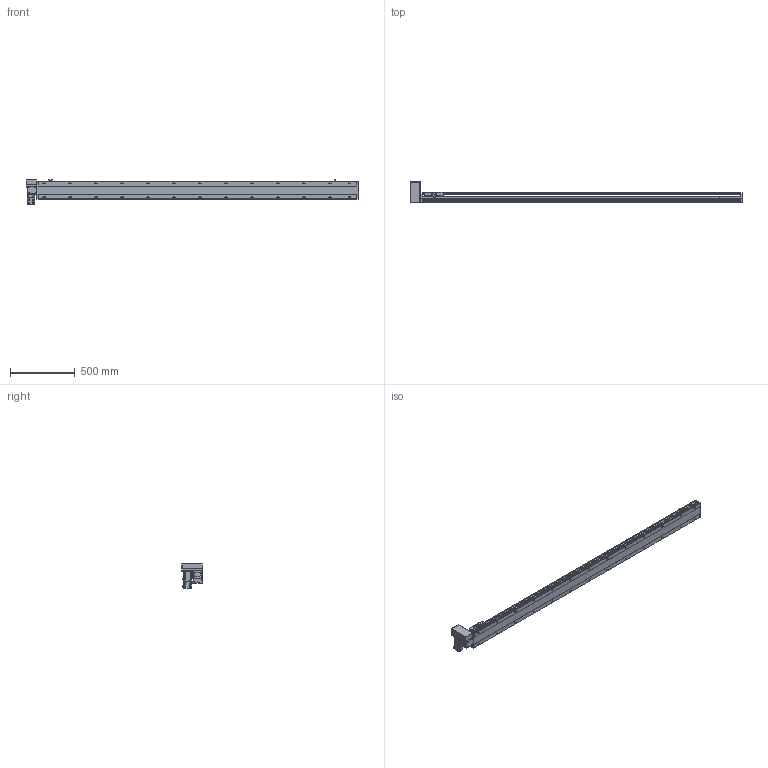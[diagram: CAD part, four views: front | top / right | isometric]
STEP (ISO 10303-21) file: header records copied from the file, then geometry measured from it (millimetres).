
FILE_DESCRIPTION( ( 'STEP AP214' ), '1' );
FILE_NAME( 'x:/temp/worker_1/temp/exporttempdir_5824_156_KJQMu/format_0/PBS140-P40-S2200-RU-T40-C1-N(0).stp', '2022-06-07T05:56:30', ( 'License CC BY-ND 4.0' ), ( 'CADENAS' ), ' ', 'PARTsolutions', ' ' );
FILE_SCHEMA( ( 'AUTOMOTIVE_DESIGN { 1 0 10303 214 1 1 1 1 }' ) );
Length unit declared in the file: millimetre
Products named in the file (7): PBS140-P40-S2200-RU-T40-C1-N(0); _PBS140-S2200()_body; _PBS140T-RU_motors; _T40-p1; _PBS140_sliser; _PBS140_plant; _PBS140_sensor
Assembly tree (8 placements, depth 2):
  PBS140-P40-S2200-RU-T40-C1-N(0)
    _PBS140-S2200()_body
    _PBS140T-RU_motors
    _T40-p1
    _PBS140_sliser
    _PBS140_plant
    _PBS140_sensor  x3
Bounding box: 2554 x 162.5 x 189.7 mm (x, y, z)
Volume: 11543391.6 mm3; surface area: 1971802.4 mm2
Topology: 8 solids, 8 shells, 1155 faces, 3036 edges, 1983 vertices
Faces by surface type: plane 722, cylinder 371, cone 52, sphere 8, torus 2
Full cylindrical faces by diameter (mm): 3.242 x4, 4 x2, 4.134 x4, 4.4 x8, 4.5 x2, 4.8 x4, 4.917 x34, 5.5 x7, 6 x2, 7 x28, 7.5 x8, 8 x12, 8.5 x4, 10.5 x26, 14 x1, 30 x2, 50 x2
Entity records: 42499 total; most frequent: CARTESIAN_POINT 7091, DIRECTION 5547, ORIENTED_EDGE 5212, EDGE_CURVE 2606, AXIS2_PLACEMENT_3D 1957, VERTEX_POINT 1821, LINE 1633, VECTOR 1633
